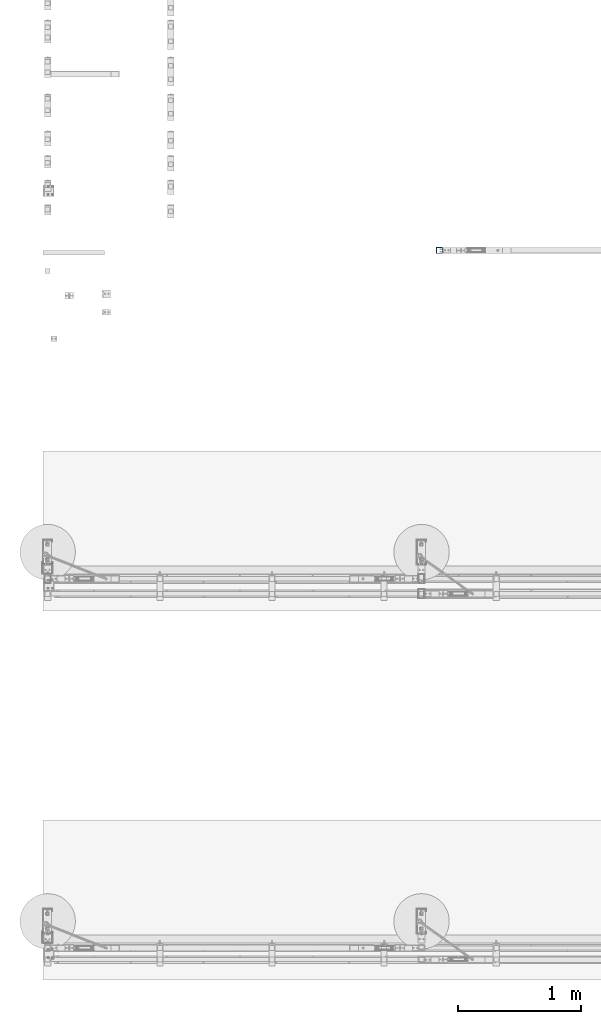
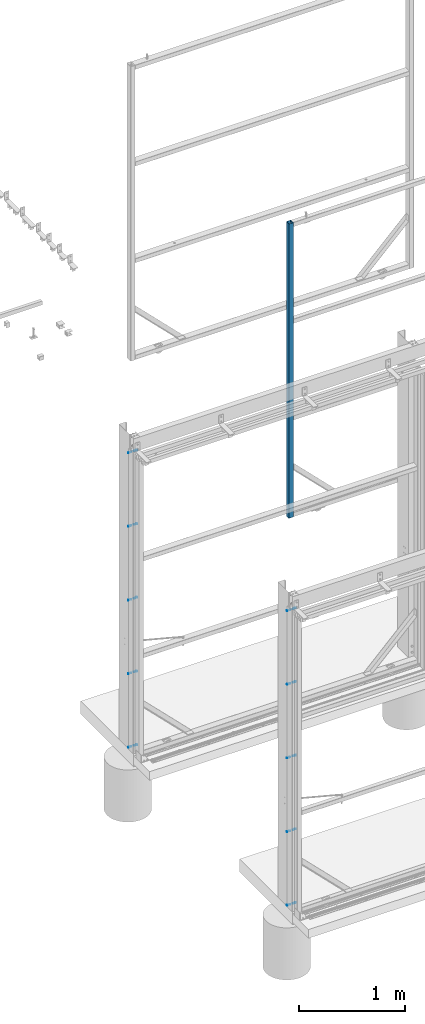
# One storey, part 13 of 91: 4 mechanical fasteners, 1 discrete accessory, 3 elements without a shape of their own.
"""IFC2X3 building model written with IfcOpenShell, lengths in millimetres."""

from ifc_helpers import new_model, si_unit, frame, origin_with_axes, origin_2d_with_axis, place, context, subcontext, project, spatial, polyline, hollow_rectangle, circle, outline, extrude, source, transform, mapped, material, type_object, element, aggregate, save


model = new_model("IFC2X3")

# Units and contexts
model_context = context("Model", 3, precision=1e-05, world=origin_with_axes())
body_context = subcontext(model_context, "Body", "Model", "MODEL_VIEW")
ifc_project = project(units=[si_unit("LENGTHUNIT", "METRE", prefix="MILLI"), si_unit("AREAUNIT", "SQUARE_METRE"), si_unit("VOLUMEUNIT", "CUBIC_METRE"), si_unit("MASSUNIT", "GRAM", prefix="KILO"), si_unit("TIMEUNIT", "SECOND"), si_unit("PLANEANGLEUNIT", "RADIAN"), si_unit("SOLIDANGLEUNIT", "STERADIAN"), si_unit("THERMODYNAMICTEMPERATUREUNIT", "DEGREE_CELSIUS"), si_unit("LUMINOUSINTENSITYUNIT", "LUMEN")], contexts=[model_context])

# Site, building, storey
site_placement = place(None, origin_with_axes())
site = spatial("IfcSite", under=ifc_project, at=site_placement, Name="Undefined", CompositionType="ELEMENT")
building_placement = place(site_placement, origin_with_axes())
building = spatial("IfcBuilding", under=site, at=building_placement, Name="Undefined", CompositionType="ELEMENT")
storey_placement = place(building_placement, origin_with_axes())
storey = spatial("IfcBuildingStorey", under=building, at=storey_placement, Name="Undefined", CompositionType="ELEMENT", Elevation=0.0)

# Assembly, discrete accessory
assembly_1_placement = place(storey_placement, origin_with_axes())
assembly_1 = element("IfcElementAssembly", 1, at=assembly_1_placement, inside=storey, Name="Sliding Door Beam", AssemblyPlace="NOTDEFINED", PredefinedType="RIGID_FRAME")
ifc_material_1 = material(Name="STEEL/300")
discrete_accessory_type_1 = type_object("IfcDiscreteAccessoryType", Name="Sliding Door Post")
discrete_accessory_placement = place(assembly_1_placement, frame((-113613.79, 90380.0, -17.0), z_axis=(0.0, 0.0, 1.0), x_axis=(0.0, 1.0, 0.0)))
discrete_accessory = element("IfcDiscreteAccessory", 2, at=discrete_accessory_placement, type_object=discrete_accessory_type_1, material=ifc_material_1, Name="Sliding Door Post", ObjectType="SHS:50x50x2.0", context=body_context, shape_type="SweptSolid", body=[
    extrude(hollow_rectangle(XDim=50.0, YDim=50.0, WallThickness=2.0, InnerFilletRadius=2.0, OuterFilletRadius=4.0, at=origin_2d_with_axis()), frame((0.0, 0.0, 3393.0), z_axis=(0.0, 0.0, -1.0), x_axis=(0.0, 1.0, 0.0)), (0.0, 0.0, 1.0), 3393.0),
])
aggregate(assembly_1, [discrete_accessory])

# Assembly, mechanical fastener
assembly_2_placement = place(storey_placement, origin_with_axes())
assembly_2 = element("IfcElementAssembly", 3, at=assembly_2_placement, inside=storey, Name="FOLDED CHANNEL", AssemblyPlace="NOTDEFINED", PredefinedType="RIGID_FRAME")
ifc_material_2 = material(Name="TEK_16TPIM")
discrete_accessory_type_2 = type_object("IfcDiscreteAccessoryType", Name="Bolt assembly")
shared_shape_1 = source(origin_with_axes(), body_context, "Body", "SweptSolid", [
    extrude(circle(Radius=3.5, at=origin_2d_with_axis()), frame((0.0, -1.0, 0.0), z_axis=(0.0, 1.0, 0.0), x_axis=(1.0, 0.0, 0.0)), (0.0, 0.0, 1.0), 1.1),
    extrude(outline(polyline([(4.04145188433, 0.0), (2.020725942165, 3.5000000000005), (-2.020725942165, 3.5000000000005), (-4.04145188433, 0.0), (-2.020725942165, -3.5000000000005), (2.020725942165, -3.5000000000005), (4.04145188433, 0.0)])), frame((0.0, -6.10000000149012, 0.0), z_axis=(0.0, 1.0, 0.0), x_axis=(1.0, 0.0, 0.0)), (0.0, 0.0, 1.0), 5.0),
    extrude(circle(Radius=2.5, at=origin_2d_with_axis()), frame((0.0, -1.10000000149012, 0.0), z_axis=(0.0, 1.0, 0.0), x_axis=(1.0, 0.0, 0.0)), (0.0, 0.0, 1.0), 25.0),
    extrude(circle(Radius=2.5, at=origin_2d_with_axis()), frame((0.0, -1.10000000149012, 0.0), z_axis=(0.0, 1.0, 0.0), x_axis=(1.0, 0.0, 0.0)), (0.0, 0.0, 1.0), 0.1),
    extrude(circle(Radius=2.5, at=origin_2d_with_axis()), frame((0.0, 0.0, 0.0), z_axis=(0.0, 1.0, 0.0), x_axis=(1.0, 0.0, 0.0)), (0.0, 0.0, 1.0), 0.1),
    extrude(outline(polyline([(2.88675134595, 0.0), (1.443375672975, 2.50000000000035), (-1.443375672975, 2.50000000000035), (-2.88675134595, 0.0), (-1.443375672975, -2.50000000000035), (1.443375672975, -2.50000000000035), (2.88675134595, 0.0)])), frame((0.0, 0.1, 0.0), z_axis=(0.0, 1.0, 0.0), x_axis=(1.0, 0.0, 0.0)), (0.0, 0.0, 1.0), 0.1),
])
mechanical_fastener_1_placement = place(assembly_2_placement, frame((-116756.84, 87837.15, -7.0), z_axis=(0.0, -1.0, 0.0), x_axis=(0.0, 0.0, 1.0)))
mechanical_fastener_1 = element("IfcMechanicalFastener", 4, at=mechanical_fastener_1_placement, type_object=discrete_accessory_type_2, material=ifc_material_2, Name="Bolt assembly", NominalDiameter=5.0, NominalLength=25.0, context=body_context, shape_type="MappedRepresentation", body=[
    mapped(shared_shape_1, transform((0.0, 0.0, 0.0))),
    mapped(shared_shape_1, transform((848.75, 0.0, 0.0))),
    mapped(shared_shape_1, transform((1697.5, 0.0, 0.0))),
    mapped(shared_shape_1, transform((2546.25, 0.0, 0.0))),
    mapped(shared_shape_1, transform((3395.0, 0.0, 0.0))),
])

assembly_3_placement = place(storey_placement, origin_with_axes())
assembly_3 = element("IfcElementAssembly", 5, at=assembly_3_placement, inside=storey, Name="FOLDED CHANNEL", AssemblyPlace="NOTDEFINED", PredefinedType="RIGID_FRAME")
mechanical_fastener_2_placement = place(assembly_3_placement, frame((-116756.84, 84837.15, -7.0), z_axis=(0.0, -1.0, 0.0), x_axis=(0.0, 0.0, 1.0)))
mechanical_fastener_2 = element("IfcMechanicalFastener", 6, at=mechanical_fastener_2_placement, type_object=discrete_accessory_type_2, material=ifc_material_2, Name="Bolt assembly", NominalDiameter=5.0, NominalLength=25.0, context=body_context, shape_type="MappedRepresentation", body=[
    mapped(shared_shape_1, transform((0.0, 0.0, 0.0))),
    mapped(shared_shape_1, transform((848.75, 0.0, 0.0))),
    mapped(shared_shape_1, transform((1697.5, 0.0, 0.0))),
    mapped(shared_shape_1, transform((2546.25, 0.0, 0.0))),
    mapped(shared_shape_1, transform((3395.0, 0.0, 0.0))),
])

# Mechanical fastener
shared_shape_2 = source(origin_with_axes(), body_context, "Body", "SweptSolid", [
    extrude(circle(Radius=3.5, at=origin_2d_with_axis()), frame((0.0, -4.00000000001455, 0.0), z_axis=(0.0, 1.0, 0.0), x_axis=(1.0, 0.0, 0.0)), (0.0, 0.0, 1.0), 1.1),
    extrude(outline(polyline([(4.04145188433, 0.0), (2.020725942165, 3.5000000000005), (-2.020725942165, 3.5000000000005), (-4.04145188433, 0.0), (-2.020725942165, -3.5000000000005), (2.020725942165, -3.5000000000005), (4.04145188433, 0.0)])), frame((0.0, -9.10000000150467, 0.0), z_axis=(0.0, 1.0, 0.0), x_axis=(1.0, 0.0, 0.0)), (0.0, 0.0, 1.0), 5.0),
    extrude(circle(Radius=2.5, at=origin_2d_with_axis()), frame((0.0, -4.10000000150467, 0.0), z_axis=(0.0, 1.0, 0.0), x_axis=(1.0, 0.0, 0.0)), (0.0, 0.0, 1.0), 25.0),
    extrude(circle(Radius=2.5, at=origin_2d_with_axis()), frame((0.0, -4.10000000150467, 0.0), z_axis=(0.0, 1.0, 0.0), x_axis=(1.0, 0.0, 0.0)), (0.0, 0.0, 1.0), 0.1),
    extrude(circle(Radius=2.5, at=origin_2d_with_axis()), frame((0.0, -3.00000000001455, 0.0), z_axis=(0.0, 1.0, 0.0), x_axis=(1.0, 0.0, 0.0)), (0.0, 0.0, 1.0), 0.1),
    extrude(outline(polyline([(2.88675134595, 0.0), (1.443375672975, 2.50000000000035), (-1.443375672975, 2.50000000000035), (-2.88675134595, 0.0), (-1.443375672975, -2.50000000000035), (1.443375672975, -2.50000000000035), (2.88675134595, 0.0)])), frame((0.0, -2.89999999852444, 0.0), z_axis=(0.0, 1.0, 0.0), x_axis=(1.0, 0.0, 0.0)), (0.0, 0.0, 1.0), 0.1),
])
mechanical_fastener_3_placement = place(assembly_2_placement, frame((-116834.84, 87837.15, -7.0), z_axis=(0.0, 1.0, 0.0), x_axis=(0.0, 0.0, 1.0)))
mechanical_fastener_3 = element("IfcMechanicalFastener", 7, at=mechanical_fastener_3_placement, type_object=discrete_accessory_type_2, material=ifc_material_2, Name="Bolt assembly", NominalDiameter=5.0, NominalLength=25.0, context=body_context, shape_type="MappedRepresentation", body=[
    mapped(shared_shape_2, transform((0.0, 0.0, 0.0))),
    mapped(shared_shape_2, transform((848.75, 0.0, 0.0))),
    mapped(shared_shape_2, transform((1697.5, 0.0, 0.0))),
    mapped(shared_shape_2, transform((2546.25, 0.0, 0.0))),
    mapped(shared_shape_2, transform((3395.0, 0.0, 0.0))),
])

aggregate(assembly_2, [mechanical_fastener_1, mechanical_fastener_3])

mechanical_fastener_4_placement = place(assembly_3_placement, frame((-116834.84, 84837.15, -7.0), z_axis=(0.0, 1.0, 0.0), x_axis=(0.0, 0.0, 1.0)))
mechanical_fastener_4 = element("IfcMechanicalFastener", 8, at=mechanical_fastener_4_placement, type_object=discrete_accessory_type_2, material=ifc_material_2, Name="Bolt assembly", NominalDiameter=5.0, NominalLength=25.0, context=body_context, shape_type="MappedRepresentation", body=[
    mapped(shared_shape_2, transform((0.0, 0.0, 0.0))),
    mapped(shared_shape_2, transform((848.75, 0.0, 0.0))),
    mapped(shared_shape_2, transform((1697.5, 0.0, 0.0))),
    mapped(shared_shape_2, transform((2546.25, 0.0, 0.0))),
    mapped(shared_shape_2, transform((3395.0, 0.0, 0.0))),
])

aggregate(assembly_3, [mechanical_fastener_2, mechanical_fastener_4])

save(model, "model.ifc")
